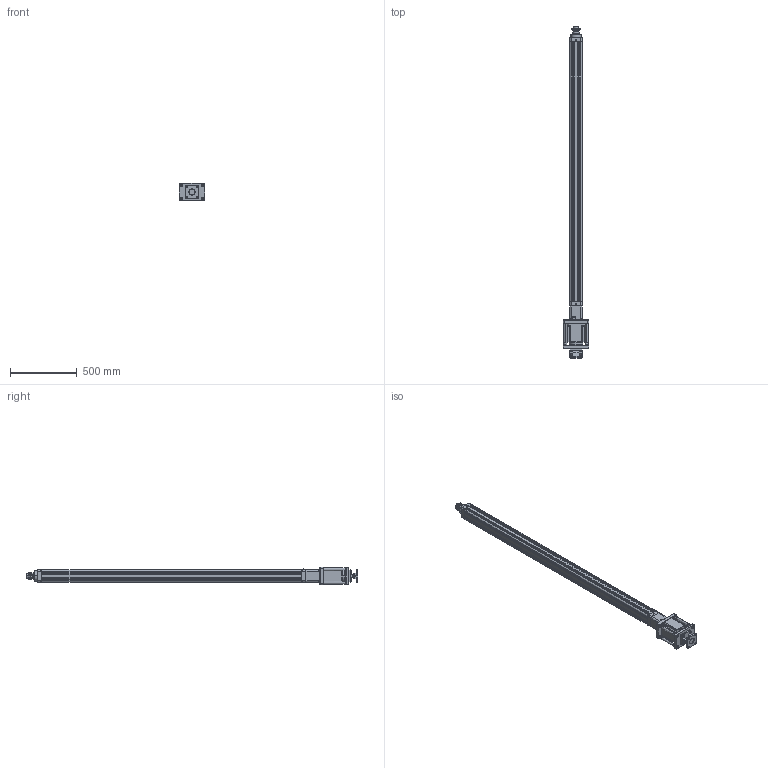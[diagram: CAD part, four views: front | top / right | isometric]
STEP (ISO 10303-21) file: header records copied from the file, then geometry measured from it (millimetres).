
FILE_DESCRIPTION((''),'2;1');
FILE_NAME('HE80-D-P_ASM','2020-05-14T',('ASUS20200'),(''),'CREO PARAMETRIC BY PTC INC, 2014190','CREO PARAMETRIC BY PTC INC, 2014190','');
FILE_SCHEMA(('CONFIG_CONTROL_DESIGN'));
Length unit declared in the file: millimetre
Products named in the file (29): HE80-D-P-001-X1; HE80-D-P-002-X1; HE80-D-P-003-X1; 30304J; YZ-M6X1; SLM-01; JDB506030; HE80-100-D-P-X1_ASM; HE80-D-009-X1; HE80-D-010-X1-130N; M10X110; SKT-20; M8X20; 130ST-M10010; JX6X6X40; TD-8; M8X40; HE80-D-P-005-X1; HE80-D-P-004-X1; HE80-D-P-008-X1; LGLM-M10-25; HE80-FB-LG; F-HE80FB; M10X30; F-SE80CB; F-SE80CB-XD; F-SE80CB_ASM; F-SE80CA; HE80-D-P_ASM
Assembly tree (59 placements, depth 3):
  HE80-D-P_ASM
    HE80-100-D-P-X1_ASM
      HE80-D-P-001-X1
      HE80-D-P-002-X1
      HE80-D-P-003-X1
      30304J  x2
      YZ-M6X1
      SLM-01
      JDB506030
    HE80-D-009-X1
    HE80-D-010-X1-130N
    M10X110  x4
    SKT-20  x2
    M8X20  x4
    130ST-M10010
    JX6X6X40
    TD-8  x4
    M8X40  x4
    HE80-D-P-005-X1
    HE80-D-P-004-X1
    HE80-D-P-008-X1
    LGLM-M10-25  x4
    HE80-FB-LG  x4
    F-HE80FB
    M10X30  x12
    F-SE80CB_ASM
      F-SE80CB
      F-SE80CB-XD
    F-SE80CA
Bounding box: 190 x 2479 x 130.01 mm (x, y, z)
Volume: 9728507.3 mm3; surface area: 2877098.2 mm2
Topology: 57 solids, 92 shells, 2342 faces, 5335 edges, 3254 vertices
Faces by surface type: plane 798, cylinder 686, cone 678, torus 146, sphere 30, bspline 4
Entity records: 48146 total; most frequent: CARTESIAN_POINT 8956, DIRECTION 8818, ORIENTED_EDGE 7392, EDGE_CURVE 3751, AXIS2_PLACEMENT_3D 3471, VERTEX_POINT 2286, EDGE_LOOP 1937, VECTOR 1876
